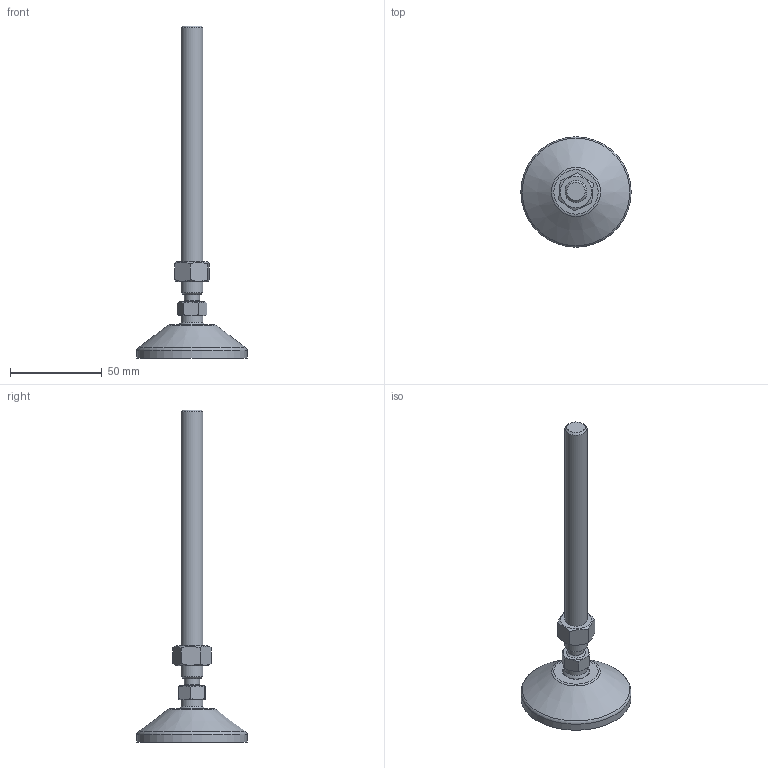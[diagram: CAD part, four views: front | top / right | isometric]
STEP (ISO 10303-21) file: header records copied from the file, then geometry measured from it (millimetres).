
FILE_DESCRIPTION(('STEP AP203'), '1');
FILE_NAME('栖闉罻', '', ('UNSPECIFIED'), ('UNSPECIFIED'), 'C3D Converter', 'C3D Toolkit', '');
FILE_SCHEMA(('CONFIG_CONTROL_DESIGN'));
Length unit declared in the file: millimetre
Products named in the file (4): A00020.112150; A00015.1060
Assembly tree (3 placements, depth 3):
  (unnamed)
    A00020.112150
      (unnamed)
    A00015.1060
Bounding box: 60 x 60 x 180.48 mm (x, y, z)
Volume: 41752.8 mm3; surface area: 18117.1 mm2
Topology: 3 solids, 3 shells, 165 faces, 428 edges, 282 vertices
Faces by surface type: plane 87, cylinder 34, cone 21, torus 21, sphere 2
Full cylindrical faces by diameter (mm): 4 x8, 8.3 x1, 10.647 x1, 12 x2, 14.3 x1, 15 x2, 15.5 x1, 50.5 x1, 60 x1
Entity records: 8635 total; most frequent: CARTESIAN_POINT 3215, DIRECTION 812, ORIENTED_EDGE 786, EDGE_CURVE 393, AXIS2_PLACEMENT_3D 336, VERTEX_POINT 281, EDGE_LOOP 214, FACE_BOUND 174
